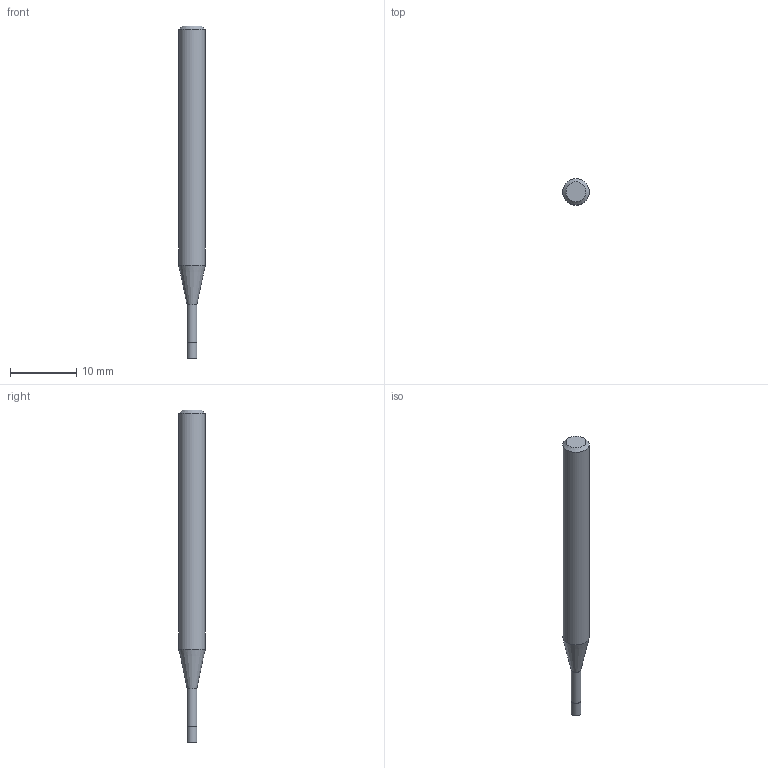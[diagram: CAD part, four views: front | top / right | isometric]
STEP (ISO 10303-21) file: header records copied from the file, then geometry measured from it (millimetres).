
FILE_DESCRIPTION((''),'2;1');
FILE_NAME('C:\Users\nsx150\AppData\Local\Temp\Mastercam 2021\17T8Q8S9EB\TEMP.step','2021-04-21T16:14:49',(''),(''),'STEP Write','Mastercam 2021 ... CNC Software, Inc.','');
FILE_SCHEMA(('AUTOMOTIVE_DESIGN'));
Length unit declared in the file: millimetre
Products named in the file (1): None
Bounding box: 4 x 4 x 50 mm (x, y, z)
Volume: 502 mm3; surface area: 555.5 mm2
Topology: 2 solids, 2 shells, 9 faces, 12 edges, 7 vertices
Faces by surface type: plane 4, cylinder 3, cone 2
Full cylindrical faces by diameter (mm): 1.45 x1, 1.5 x1, 4 x1
Entity records: 211 total; most frequent: DIRECTION 36, CARTESIAN_POINT 25, AXIS2_PLACEMENT_3D 18, ORIENTED_EDGE 14, EDGE_LOOP 14, STYLED_ITEM 12, ADVANCED_FACE 9, FACE_BOUND 8
